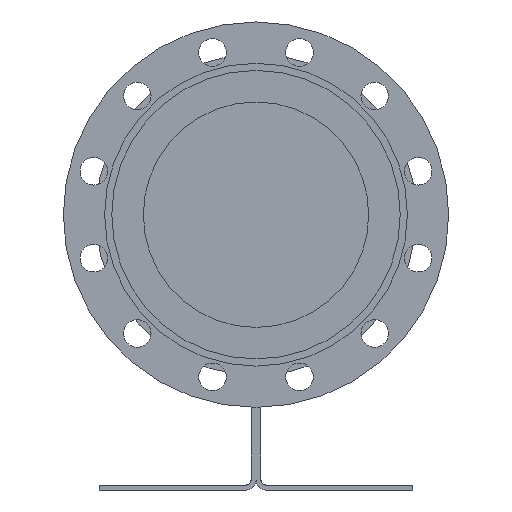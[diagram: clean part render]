
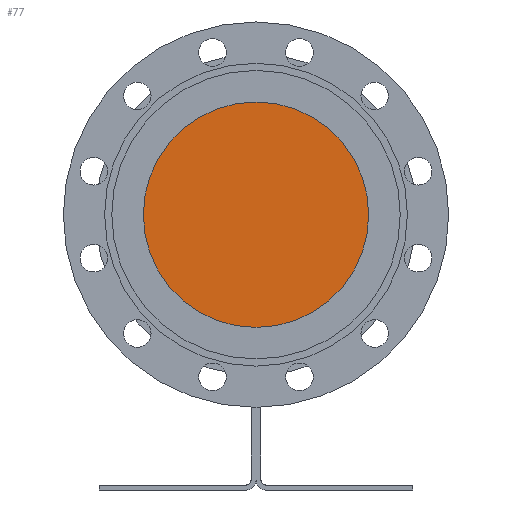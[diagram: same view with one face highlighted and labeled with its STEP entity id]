
A CAD part, left-side view. The second image highlights one B-rep face of the part: STEP entity #77.
In plain terms, the highlighted planar face has unit normal (-1, 0, 0).
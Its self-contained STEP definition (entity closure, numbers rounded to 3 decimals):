
#77=ADVANCED_FACE('',(#609),#608,.T.);
#608=PLANE('',#1815);
#609=FACE_OUTER_BOUND('',#1816,.T.);
#1812=CARTESIAN_POINT('',(-61.5,-187.275,-214.7));
#1813=DIRECTION('',(-1.,0.,0.));
#1814=DIRECTION('',(0.,0.,1.));
#1815=AXIS2_PLACEMENT_3D('',#1812,#1813,#1814);
#1816=EDGE_LOOP('',(#2600,#2601));
#2600=ORIENTED_EDGE('',*,*,#3246,.F.);
#2601=ORIENTED_EDGE('',*,*,#3247,.F.);
#3246=EDGE_CURVE('',#4977,#4978,#4979,.T.);
#3247=EDGE_CURVE('',#4978,#4977,#4985,.T.);
#4977=VERTEX_POINT('',#6773);
#4978=VERTEX_POINT('',#6774);
#4979=CIRCLE('',#6778,102.35);
#4985=CIRCLE('',#6782,102.35);
#6773=CARTESIAN_POINT('',(-61.5,0.,-102.35));
#6774=CARTESIAN_POINT('',(-61.5,0.,102.35));
#6775=CARTESIAN_POINT('',(-61.5,0.,0.));
#6776=DIRECTION('',(1.,0.,0.));
#6777=DIRECTION('',(0.,0.,1.));
#6778=AXIS2_PLACEMENT_3D('',#6775,#6776,#6777);
#6779=CARTESIAN_POINT('',(-61.5,0.,0.));
#6780=DIRECTION('',(1.,0.,0.));
#6781=DIRECTION('',(0.,0.,1.));
#6782=AXIS2_PLACEMENT_3D('',#6779,#6780,#6781);
